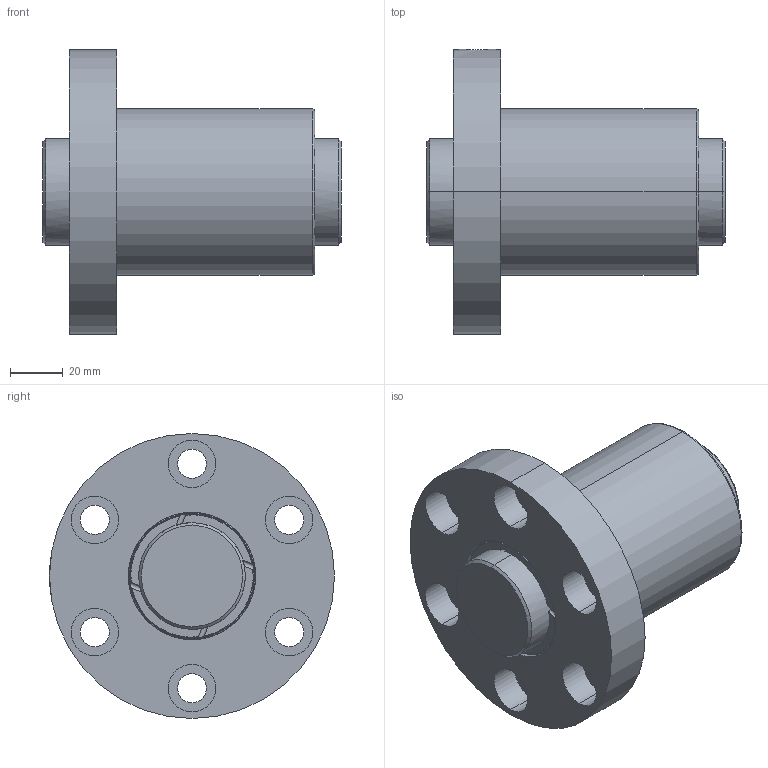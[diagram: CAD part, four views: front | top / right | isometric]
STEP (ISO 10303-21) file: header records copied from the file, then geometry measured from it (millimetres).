
FILE_DESCRIPTION (( 'STEP AP203' ), '1' );
FILE_NAME ('SFZR04010T4N-C.STEP', '2020-06-18T01:01:58', ( '' ), ( '' ), 'SwSTEP 2.0', 'SolidWorks 2013', '' );
FILE_SCHEMA (( 'CONFIG_CONTROL_DESIGN' ));
Length unit declared in the file: millimetre
Products named in the file (1): SFZR04010T4N-C
Bounding box: 113 x 108 x 108 mm (x, y, z)
Volume: 394229.3 mm3; surface area: 71245.3 mm2
Topology: 1 solids, 1 shells, 116 faces, 280 edges, 178 vertices
Faces by surface type: cylinder 66, plane 26, torus 20, cone 4
Entity records: 3915 total; most frequent: CARTESIAN_POINT 1037, DIRECTION 628, ORIENTED_EDGE 560, EDGE_CURVE 280, AXIS2_PLACEMENT_3D 277, VERTEX_POINT 178, CIRCLE 160, EDGE_LOOP 144
